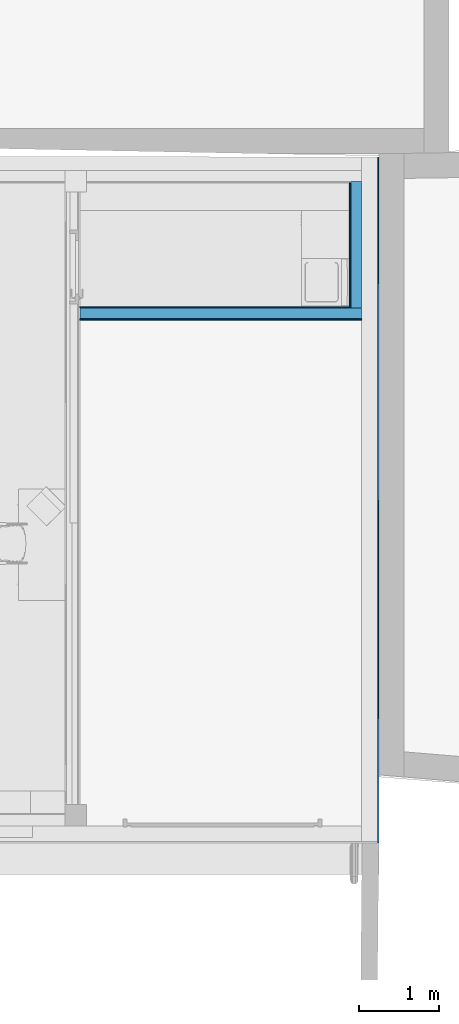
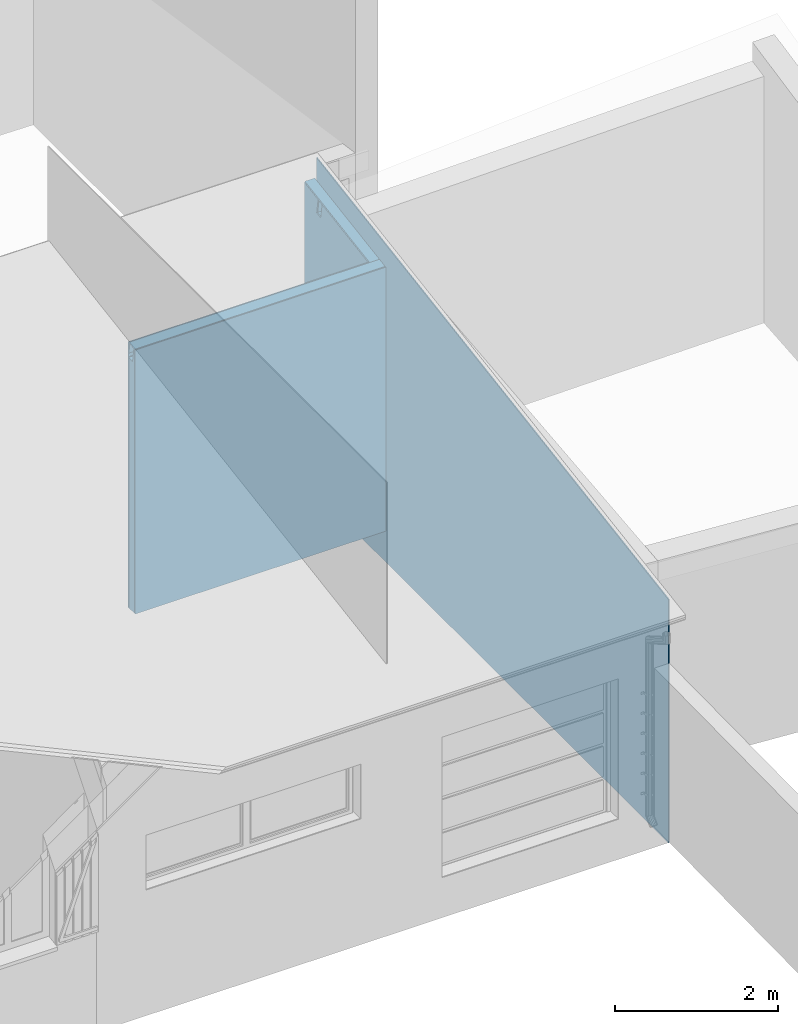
# One storey, part 17 of 24: 6 building element parts, 3 elements without a shape of their own.
"""IFC2X3 building model written with IfcOpenShell, lengths in metres."""

from ifc_helpers import new_model, entity, si_unit, converted_unit, derived_unit, money_unit, direction, frame, origin_with_axes, place, context, subcontext, project, spatial, polyline, outline, extrude, boolean, faceted_brep, material, type_object, element, aggregate, save


model = new_model("IFC2X3")

# Units and contexts
model_context = context("Model", 3, precision=1e-05, world=origin_with_axes(), true_north=direction((0.0, 1.0)))
body_context = subcontext(model_context, "Body", "Model", "MODEL_VIEW")
ifc_project = project(units=[si_unit("LENGTHUNIT", "METRE"), si_unit("AREAUNIT", "SQUARE_METRE"), si_unit("VOLUMEUNIT", "CUBIC_METRE"), converted_unit("PLANEANGLEUNIT", "DEGREE", entity("IfcPlaneAngleMeasure", 0.0174532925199), si_unit("PLANEANGLEUNIT", "RADIAN"), dimensions=[0, 0, 0, 0, 0, 0, 0]), si_unit("SOLIDANGLEUNIT", "STERADIAN"), money_unit("CHF"), converted_unit("TIMEUNIT", "Year", entity("IfcTimeMeasure", 31556926.0), si_unit("TIMEUNIT", "SECOND"), dimensions=[0, 0, 1, 0, 0, 0, 0]), si_unit("MASSUNIT", "GRAM", prefix="KILO"), si_unit("THERMODYNAMICTEMPERATUREUNIT", "DEGREE_CELSIUS"), si_unit("LUMINOUSINTENSITYUNIT", "LUMEN"), si_unit("ENERGYUNIT", "JOULE", prefix="MEGA"), derived_unit("THERMALCONDUCTANCEUNIT", [(si_unit("POWERUNIT", "WATT"), 1), (si_unit("LENGTHUNIT", "METRE"), -1), (si_unit("THERMODYNAMICTEMPERATUREUNIT", "KELVIN"), -1)]), derived_unit("SPECIFICHEATCAPACITYUNIT", [(si_unit("ENERGYUNIT", "JOULE"), 1), (si_unit("MASSUNIT", "GRAM", prefix="KILO"), -1), (si_unit("THERMODYNAMICTEMPERATUREUNIT", "KELVIN"), -1)]), derived_unit("MASSDENSITYUNIT", [(si_unit("MASSUNIT", "GRAM", prefix="KILO"), 1), (si_unit("VOLUMEUNIT", "CUBIC_METRE"), -1)])], contexts=[model_context])

# Site, building, storey
site_placement = place(None, origin_with_axes())
site = spatial("IfcSite", under=ifc_project, at=site_placement, Name="Site", CompositionType="ELEMENT")
building_placement = place(site_placement, origin_with_axes())
building = spatial("IfcBuilding", under=site, at=building_placement, Name="Bâtiment", CompositionType="ELEMENT")
storey_placement = place(building_placement, origin_with_axes())
storey = spatial("IfcBuildingStorey", under=building, at=storey_placement, Name="Rez-de-chaussée", CompositionType="ELEMENT", Elevation=0.0)

# Wall, building element part
wall_type_1 = type_object("IfcWallType", Name="0.0 - Mur ext: revét ext + maçonnerie 215", PredefinedType="ELEMENTEDWALL")
wall_1_placement = place(storey_placement, frame((31.2721417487, 16.1929346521, -0.6), z_axis=(0.0, 0.0, 1.0), x_axis=(0.0, -1.0, 0.0)))
wall_1 = element("IfcWall", 1, at=wall_1_placement, inside=storey, type_object=wall_type_1, Name="MUR_EXT-001", ObjectType="ELEMENTEDWALL")
ifc_material_1 = material(Name="Finition ext - Crépis")
building_element_part_1_placement = place(wall_1_placement, origin_with_axes())
building_element_part_1 = element("IfcBuildingElementPart", 2, at=building_element_part_1_placement, material=ifc_material_1, Name="Finition ext - Crépis", context=body_context, shape_type="CSG", body=[
    boolean("DIFFERENCE", boolean("DIFFERENCE", boolean("DIFFERENCE", boolean("DIFFERENCE", boolean("DIFFERENCE", boolean("DIFFERENCE", boolean("DIFFERENCE", boolean("DIFFERENCE", extrude(outline(polyline([(-0.215, 0.2), (8.455, 0.2), (8.455, 0.215), (-0.215, 0.215), (-0.215, 0.2)])), origin_with_axes(), (0.0, 0.0, 1.0), 5.5967588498), faceted_brep([(6.98500770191, 0.0, 3.87376334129), (6.88626356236, 0.0, 3.88956191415), (6.85150670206, 0.0, 3.67232480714), (6.95025084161, 0.0, 3.65652623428), (6.98500770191, 0.0733046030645, 3.87376334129), (6.88626356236, 0.0733046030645, 3.88956191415), (6.85150670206, 0.0733046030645, 3.67232480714), (6.95025084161, 0.0733046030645, 3.65652623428)], [[[0, 1, 2, 3]], [[1, 0, 4, 5]], [[2, 1, 5, 6]], [[3, 2, 6, 7]], [[0, 3, 7, 4]], [[4, 7, 6, 5]]])), faceted_brep([(5.70133388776, 0.0, 4.0791447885), (5.60258974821, 0.0, 4.09494336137), (5.56783288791, 0.0, 3.87770625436), (5.66657702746, 0.0, 3.86190768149), (5.70133388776, 0.0733046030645, 4.0791447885), (5.60258974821, 0.0733046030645, 4.09494336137), (5.56783288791, 0.0733046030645, 3.87770625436), (5.66657702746, 0.0733046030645, 3.86190768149)], [[[0, 1, 2, 3]], [[1, 0, 4, 5]], [[2, 1, 5, 6]], [[3, 2, 6, 7]], [[0, 3, 7, 4]], [[4, 7, 6, 5]]])), faceted_brep([(4.4176600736, 0.0, 4.28452623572), (4.31891593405, 0.0, 4.30032480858), (4.28415907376, 0.0, 4.08308770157), (4.38290321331, 0.0, 4.06728912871), (4.4176600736, 0.0733046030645, 4.28452623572), (4.31891593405, 0.0733046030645, 4.30032480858), (4.28415907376, 0.0733046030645, 4.08308770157), (4.38290321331, 0.0733046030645, 4.06728912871)], [[[0, 1, 2, 3]], [[1, 0, 4, 5]], [[2, 1, 5, 6]], [[3, 2, 6, 7]], [[0, 3, 7, 4]], [[4, 7, 6, 5]]])), faceted_brep([(3.13398625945, 0.0, 4.48990768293), (3.0352421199, 0.0, 4.5057062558), (3.0004852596, 0.0, 4.28846914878), (3.09922939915, 0.0, 4.27267057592), (3.13398625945, 0.0733046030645, 4.48990768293), (3.0352421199, 0.0733046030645, 4.5057062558), (3.0004852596, 0.0733046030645, 4.28846914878), (3.09922939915, 0.0733046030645, 4.27267057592)], [[[0, 1, 2, 3]], [[1, 0, 4, 5]], [[2, 1, 5, 6]], [[3, 2, 6, 7]], [[0, 3, 7, 4]], [[4, 7, 6, 5]]])), faceted_brep([(1.8503124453, 0.0, 4.69528913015), (1.75156830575, 0.0, 4.71108770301), (1.71681144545, 0.0, 4.493850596), (1.815555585, 0.0, 4.47805202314), (1.8503124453, 0.0733046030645, 4.69528913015), (1.75156830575, 0.0733046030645, 4.71108770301), (1.71681144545, 0.0733046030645, 4.493850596), (1.815555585, 0.0733046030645, 4.47805202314)], [[[0, 1, 2, 3]], [[1, 0, 4, 5]], [[2, 1, 5, 6]], [[3, 2, 6, 7]], [[0, 3, 7, 4]], [[4, 7, 6, 5]]])), faceted_brep([(0.589167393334, 0.0, 4.89706608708), (0.490423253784, 0.0, 4.91286465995), (0.455666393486, 0.0, 4.69562755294), (0.554410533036, 0.0, 4.67982898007), (0.589167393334, 0.0733046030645, 4.89706608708), (0.490423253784, 0.0733046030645, 4.91286465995), (0.455666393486, 0.0733046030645, 4.69562755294), (0.554410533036, 0.0733046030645, 4.67982898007)], [[[0, 1, 2, 3]], [[1, 0, 4, 5]], [[2, 1, 5, 6]], [[3, 2, 6, 7]], [[0, 3, 7, 4]], [[4, 7, 6, 5]]])), faceted_brep([(8.44, 0.2, 0.0), (8.44, 0.2, 3.6423999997), (-0.167677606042, 0.2, 5.01962841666), (-0.167677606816, 0.2, 0.0), (-0.215, 0.2, 0.0), (-0.215, 0.2, 5.5967588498), (8.455, 0.2, 5.5967588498), (8.455, 0.2, 0.0), (8.44, 0.0, 0.0), (8.44, 0.0, 3.6423999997), (-0.168143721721, 0.0, 5.01970299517), (-0.168143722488, 0.0, 0.0), (-0.215, 0.0, 0.0), (-0.215, 0.0, 5.5967588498), (8.455, 0.0, 5.5967588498), (8.455, 0.0, 0.0)], [[[0, 1, 2, 3, 4, 5, 6, 7]], [[1, 0, 8, 9]], [[9, 10, 2, 1]], [[11, 3, 2, 10]], [[3, 11, 12, 4]], [[5, 4, 12, 13]], [[5, 13, 14, 6]], [[14, 15, 7, 6]], [[8, 0, 7, 15]], [[9, 8, 15, 14, 13, 12, 11, 10]]])), faceted_brep([(-0.167642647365, 0.21500000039, 5.01962282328), (-0.167642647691, 0.215000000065, 0.0), (-0.215, 0.215, 0.0), (-0.215, 0.215, 5.5967588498), (8.455, 0.215, 5.5967588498), (8.455, 0.21500000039, 3.6399999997), (-0.167677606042, 0.2, 5.01962841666), (-0.167677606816, 0.2, 0.0), (-0.215, 0.2, 0.0), (-0.215, 0.2, 5.5967588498), (8.455, 0.2, 5.5967588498), (8.455, 0.2, 3.6399999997)], [[[0, 1, 2, 3, 4, 5]], [[1, 0, 6, 7]], [[1, 7, 8, 2]], [[3, 2, 8, 9]], [[3, 9, 10, 4]], [[11, 5, 4, 10]], [[0, 5, 11, 6]], [[11, 10, 9, 8, 7, 6]]])),
])
aggregate(wall_1, [building_element_part_1])

# Wall, building element parts
wall_type_2 = type_object("IfcWallType", Name="3.3b - Cloison doublage isolation + plâtre 1 face 155", PredefinedType="ELEMENTEDWALL")
wall_2_placement = place(storey_placement, frame((31.2721417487, 14.311525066, -0.13), z_axis=(0.0, 0.0, 1.0), x_axis=(0.0, 1.0, 0.0)))
wall_2 = element("IfcWall", 3, at=wall_2_placement, inside=storey, type_object=wall_type_2, Name="MUR_EXT-010", ObjectType="ELEMENTEDWALL")
ifc_material_2 = material(Name="Finition int - Plaque de plâtre")
building_element_part_2_placement = place(wall_2_placement, origin_with_axes())
building_element_part_2 = element("IfcBuildingElementPart", 4, at=building_element_part_2_placement, material=ifc_material_2, Name="Finition int - Plaque de plâtre", context=body_context, shape_type="CSG", body=[
    boolean("DIFFERENCE", boolean("DIFFERENCE", boolean("DIFFERENCE", boolean("DIFFERENCE", extrude(outline(polyline([(0.0, 0.14), (2.09640958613, 0.14), (2.09640958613, 0.155), (0.0, 0.155), (0.0, 0.14)])), origin_with_axes(), (0.0, 0.0, 1.0), 6.01874511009), faceted_brep([(1.29224219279, 0.155, 4.42706608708), (1.39098633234, 0.155, 4.44286465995), (1.42574319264, 0.155, 4.22562755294), (1.32699905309, 0.155, 4.20982898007), (1.29224219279, 0.14, 4.42706608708), (1.39098633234, 0.14, 4.44286465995), (1.42574319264, 0.14, 4.22562755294), (1.32699905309, 0.14, 4.20982898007)], [[[0, 1, 2, 3]], [[1, 0, 4, 5]], [[2, 1, 5, 6]], [[3, 2, 6, 7]], [[0, 3, 7, 4]], [[4, 7, 6, 5]]])), faceted_brep([(2.09640958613, 0.155, 6.01874511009), (2.09640958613, 0.155, 0.0), (0.0, 0.155, 0.0), (0.0, 0.155, 6.01874511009), (0.17, 0.155, 0.275), (1.72640958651, 0.155, 0.275), (1.72640958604, 0.155, 4.49799999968), (0.17, 0.155, 4.24897446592), (2.09640958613, 0.14, 6.01874511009), (2.09640958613, 0.14, 0.0), (0.0, 0.14, 0.0), (0.0, 0.14, 6.01874511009), (0.17, 0.14, 0.275), (1.72640958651, 0.14, 0.275), (1.72640958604, 0.14, 4.49799999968), (0.17, 0.14, 4.24897446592)], [[[0, 1, 2, 3], [4, 5, 6, 7]], [[8, 9, 1, 0]], [[9, 10, 2, 1]], [[3, 2, 10, 11]], [[3, 11, 8, 0]], [[5, 4, 12, 13]], [[13, 14, 6, 5]], [[7, 6, 14, 15]], [[15, 12, 4, 7]], [[11, 10, 9, 8], [12, 15, 14, 13]]])), faceted_brep([(1.29224219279, 0.14, 4.42706608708), (1.39098633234, 0.14, 4.44286465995), (1.42574319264, 0.14, 4.22562755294), (1.32699905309, 0.14, 4.20982898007), (1.29224219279, 4.9105253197e-10, 4.42706608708), (1.39098633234, 4.9105253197e-10, 4.44286465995), (1.42574319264, 4.9105253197e-10, 4.22562755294), (1.32699905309, 4.9105253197e-10, 4.20982898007)], [[[0, 1, 2, 3]], [[4, 5, 1, 0]], [[5, 6, 2, 1]], [[6, 7, 3, 2]], [[7, 4, 0, 3]], [[4, 7, 6, 5]]])), faceted_brep([(2.09640958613, 0.14, 6.01874511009), (2.09640958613, 0.14, 0.0), (0.0, 0.14, 0.0), (0.0, 0.14, 6.01874511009), (1.74140958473, 0.14, 0.275), (1.74140958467, 0.14, 4.50039999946), (0.155, 0.14, 4.24657446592), (0.155, 0.14, 4.08384083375), (0.164598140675, 0.14, 4.023850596), (0.155, 0.14, 4.02231494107), (0.155, 0.14, 0.275), (2.09640958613, 0.0, 6.01874511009), (2.09640958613, 0.0, 0.0), (0.0, 0.0, 0.0), (0.0, 0.0, 6.01874511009), (1.74140958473, 5.51693801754e-09, 0.275), (1.74140958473, 0.0, 4.50039999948), (0.155, 0.0, 4.24657446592), (0.155, 0.0, 4.08384083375), (0.164598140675, 4.9105253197e-10, 4.023850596), (0.155, 0.0, 4.02231494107), (0.155, 4.9105253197e-10, 0.275)], [[[0, 1, 2, 3], [4, 5, 6, 7, 8, 9, 10]], [[11, 12, 1, 0]], [[12, 13, 2, 1]], [[3, 2, 13, 14]], [[3, 14, 11, 0]], [[15, 16, 5, 4]], [[16, 17, 6, 5]], [[17, 18, 7, 6]], [[18, 19, 8, 7]], [[19, 20, 9, 8]], [[20, 21, 10, 9]], [[21, 15, 4, 10]], [[14, 13, 12, 11], [18, 17, 16, 15, 21, 20, 19]]])),
])
ifc_material_3 = material(Name="Cloison - Isolation")
building_element_part_3_placement = place(wall_2_placement, origin_with_axes())
building_element_part_3 = element("IfcBuildingElementPart", 5, at=building_element_part_3_placement, material=ifc_material_3, Name="Cloison - Isolation", context=body_context, shape_type="CSG", body=[
    boolean("DIFFERENCE", boolean("DIFFERENCE", boolean("DIFFERENCE", boolean("DIFFERENCE", extrude(outline(polyline([(0.0, 0.0), (2.09640958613, 0.0), (2.09640958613, 0.14), (0.0, 0.14), (0.0, 0.0)])), origin_with_axes(), (0.0, 0.0, 1.0), 6.01874511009), faceted_brep([(1.29224219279, 0.155, 4.42706608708), (1.39098633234, 0.155, 4.44286465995), (1.42574319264, 0.155, 4.22562755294), (1.32699905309, 0.155, 4.20982898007), (1.29224219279, 0.14, 4.42706608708), (1.39098633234, 0.14, 4.44286465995), (1.42574319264, 0.14, 4.22562755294), (1.32699905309, 0.14, 4.20982898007)], [[[0, 1, 2, 3]], [[1, 0, 4, 5]], [[2, 1, 5, 6]], [[3, 2, 6, 7]], [[0, 3, 7, 4]], [[4, 7, 6, 5]]])), faceted_brep([(2.09640958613, 0.155, 6.01874511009), (2.09640958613, 0.155, 0.0), (0.0, 0.155, 0.0), (0.0, 0.155, 6.01874511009), (0.17, 0.155, 0.275), (1.72640958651, 0.155, 0.275), (1.72640958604, 0.155, 4.49799999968), (0.17, 0.155, 4.24897446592), (2.09640958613, 0.14, 6.01874511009), (2.09640958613, 0.14, 0.0), (0.0, 0.14, 0.0), (0.0, 0.14, 6.01874511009), (0.17, 0.14, 0.275), (1.72640958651, 0.14, 0.275), (1.72640958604, 0.14, 4.49799999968), (0.17, 0.14, 4.24897446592)], [[[0, 1, 2, 3], [4, 5, 6, 7]], [[8, 9, 1, 0]], [[9, 10, 2, 1]], [[3, 2, 10, 11]], [[3, 11, 8, 0]], [[5, 4, 12, 13]], [[13, 14, 6, 5]], [[7, 6, 14, 15]], [[15, 12, 4, 7]], [[11, 10, 9, 8], [12, 15, 14, 13]]])), faceted_brep([(1.29224219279, 0.14, 4.42706608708), (1.39098633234, 0.14, 4.44286465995), (1.42574319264, 0.14, 4.22562755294), (1.32699905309, 0.14, 4.20982898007), (1.29224219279, 4.9105253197e-10, 4.42706608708), (1.39098633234, 4.9105253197e-10, 4.44286465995), (1.42574319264, 4.9105253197e-10, 4.22562755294), (1.32699905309, 4.9105253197e-10, 4.20982898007)], [[[0, 1, 2, 3]], [[4, 5, 1, 0]], [[5, 6, 2, 1]], [[6, 7, 3, 2]], [[7, 4, 0, 3]], [[4, 7, 6, 5]]])), faceted_brep([(2.09640958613, 0.14, 6.01874511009), (2.09640958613, 0.14, 0.0), (0.0, 0.14, 0.0), (0.0, 0.14, 6.01874511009), (1.74140958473, 0.14, 0.275), (1.74140958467, 0.14, 4.50039999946), (0.155, 0.14, 4.24657446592), (0.155, 0.14, 4.08384083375), (0.164598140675, 0.14, 4.023850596), (0.155, 0.14, 4.02231494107), (0.155, 0.14, 0.275), (2.09640958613, 0.0, 6.01874511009), (2.09640958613, 0.0, 0.0), (0.0, 0.0, 0.0), (0.0, 0.0, 6.01874511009), (1.74140958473, 5.51693801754e-09, 0.275), (1.74140958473, 0.0, 4.50039999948), (0.155, 0.0, 4.24657446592), (0.155, 0.0, 4.08384083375), (0.164598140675, 4.9105253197e-10, 4.023850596), (0.155, 0.0, 4.02231494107), (0.155, 4.9105253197e-10, 0.275)], [[[0, 1, 2, 3], [4, 5, 6, 7, 8, 9, 10]], [[11, 12, 1, 0]], [[12, 13, 2, 1]], [[3, 2, 13, 14]], [[3, 14, 11, 0]], [[15, 16, 5, 4]], [[16, 17, 6, 5]], [[17, 18, 7, 6]], [[18, 19, 8, 7]], [[19, 20, 9, 8]], [[20, 21, 10, 9]], [[21, 15, 4, 10]], [[14, 13, 12, 11], [18, 17, 16, 15, 21, 20, 19]]])),
])
aggregate(wall_2, [building_element_part_2, building_element_part_3])

wall_type_3 = type_object("IfcWallType", Name="3.3c - Cloison doublage isolation + plâtre 2 faces 170", PredefinedType="ELEMENTEDWALL")
wall_3_placement = place(storey_placement, frame((27.7271417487, 14.311525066, -0.13), z_axis=(0.0, 0.0, 1.0), x_axis=(1.0, 0.0, 0.0)))
wall_3 = element("IfcWall", 6, at=wall_3_placement, inside=storey, type_object=wall_type_3, Name="MUR_EXT-008", ObjectType="ELEMENTEDWALL")
building_element_part_4_placement = place(wall_3_placement, origin_with_axes())
building_element_part_4 = element("IfcBuildingElementPart", 7, at=building_element_part_4_placement, material=ifc_material_2, Name="Finition int - Plaque de plâtre", context=body_context, shape_type="CSG", body=[
    boolean("DIFFERENCE", boolean("DIFFERENCE", boolean("DIFFERENCE", extrude(outline(polyline([(0.0, 0.155), (3.76, 0.155), (3.76, 0.17), (0.0, 0.17), (0.0, 0.155)])), origin_with_axes(), (0.0, 0.0, 1.0), 6.01874511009), faceted_brep([(0.0, 0.17, 0.275), (3.405, 0.17, 0.275), (3.405, 0.17, 4.24897446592), (0.0, 0.17, 4.24897446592), (0.0, 0.17, 6.01874511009), (3.76, 0.17, 6.01874511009), (3.76, 0.17, 0.0), (0.0, 0.17, 0.0), (0.0, 0.155, 0.275), (3.405, 0.155, 0.275), (3.405, 0.155, 4.02231494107), (3.405, 0.164598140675, 4.023850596), (3.405, 0.155, 4.08384083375), (3.405, 0.155, 4.24657446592), (0.0, 0.155, 4.24657446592), (0.0, 0.155, 6.01874511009), (3.76, 0.155, 6.01874511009), (3.76, 0.155, 0.0), (0.0, 0.155, 0.0), (0.0, 0.155, 4.08384083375), (0.0, 0.155, 4.02231494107), (0.0, 0.164598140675, 4.023850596)], [[[0, 1, 2, 3, 4, 5, 6, 7]], [[1, 0, 8, 9]], [[2, 1, 9, 10, 11, 12, 13]], [[3, 2, 13, 14]], [[3, 14, 15, 4]], [[4, 15, 16, 5]], [[16, 17, 6, 5]], [[17, 18, 7, 6]], [[8, 0, 7, 18]], [[9, 8, 18, 17, 16, 15, 14, 13, 12, 19, 20, 10]], [[20, 21, 11, 10]], [[21, 19, 12, 11]], [[21, 20, 19]]])), faceted_brep([(3.54499999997, 0.155, 4.08384083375), (3.54499999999, 0.155, 4.24657446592), (0.0, 0.155, 4.24657446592), (0.0, 0.155, 6.01874511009), (3.76, 0.155, 6.01874511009), (3.76, 0.155, 0.0), (0.0, 0.155, 0.0), (0.0, 0.155, 0.275), (3.54499999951, 0.155, 0.275), (3.54499999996, 0.155, 4.02231494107), (0.0, 0.155, 4.02231494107), (0.0, 0.155, 4.08384083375), (3.54499999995, 0.129841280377, 4.24108770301), (3.54499999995, 0.0310971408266, 4.22528913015), (3.54499999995, 0.0658540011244, 4.00805202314), (3.54499999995, 0.015, 0.275), (3.545, 0.015, 4.22417446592), (0.0, 0.015, 4.22417446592), (0.0, 0.015, 6.01874511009), (3.76, 0.015, 6.01874511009), (3.76, 0.015, 0.0), (0.0, 0.015, 0.0), (0.0, 0.015, 0.275), (0.0, 0.0658540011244, 4.00805202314), (0.0, 0.129841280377, 4.24108770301), (0.0, 0.0310971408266, 4.22528913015)], [[[0, 1, 2, 3, 4, 5, 6, 7, 8, 9, 10, 11]], [[1, 0, 12, 13, 14, 9, 8, 15, 16]], [[1, 16, 17, 2]], [[2, 17, 18, 3]], [[3, 18, 19, 4]], [[19, 20, 5, 4]], [[20, 21, 6, 5]], [[22, 7, 6, 21]], [[8, 7, 22, 15]], [[9, 14, 23, 10]], [[24, 11, 10, 23, 25]], [[0, 11, 24, 12]], [[24, 25, 13, 12]], [[25, 23, 14, 13]], [[15, 22, 21, 20, 19, 18, 17, 16]]])), faceted_brep([(0.0, 0.015, 0.275), (3.54499999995, 0.015, 0.275), (3.545, 0.015, 4.22417446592), (0.0, 0.015, 4.22417446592), (0.0, 0.015, 6.01874511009), (3.76, 0.015, 6.01874511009), (3.76, 0.015, 0.0), (0.0, 0.015, 0.0), (0.0, 0.0, 0.275), (3.545, 0.0, 0.275), (3.545, 0.0, 4.22177446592), (0.0, 0.0, 4.22177446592), (0.0, 0.0, 6.01874511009), (3.76, 0.0, 6.01874511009), (3.76, 0.0, 0.0), (0.0, 0.0, 0.0)], [[[0, 1, 2, 3, 4, 5, 6, 7]], [[8, 9, 1, 0]], [[9, 10, 2, 1]], [[10, 11, 3, 2]], [[3, 11, 12, 4]], [[4, 12, 13, 5]], [[13, 14, 6, 5]], [[14, 15, 7, 6]], [[8, 0, 7, 15]], [[9, 8, 15, 14, 13, 12, 11, 10]]])),
])
building_element_part_5_placement = place(wall_3_placement, origin_with_axes())
building_element_part_5 = element("IfcBuildingElementPart", 8, at=building_element_part_5_placement, material=ifc_material_3, Name="Cloison - Isolation", context=body_context, shape_type="CSG", body=[
    boolean("DIFFERENCE", boolean("DIFFERENCE", boolean("DIFFERENCE", extrude(outline(polyline([(0.0, 0.015), (3.76, 0.015), (3.76, 0.155), (0.0, 0.155), (0.0, 0.015)])), origin_with_axes(), (0.0, 0.0, 1.0), 6.01874511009), faceted_brep([(0.0, 0.17, 0.275), (3.405, 0.17, 0.275), (3.405, 0.17, 4.24897446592), (0.0, 0.17, 4.24897446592), (0.0, 0.17, 6.01874511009), (3.76, 0.17, 6.01874511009), (3.76, 0.17, 0.0), (0.0, 0.17, 0.0), (0.0, 0.155, 0.275), (3.405, 0.155, 0.275), (3.405, 0.155, 4.02231494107), (3.405, 0.164598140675, 4.023850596), (3.405, 0.155, 4.08384083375), (3.405, 0.155, 4.24657446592), (0.0, 0.155, 4.24657446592), (0.0, 0.155, 6.01874511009), (3.76, 0.155, 6.01874511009), (3.76, 0.155, 0.0), (0.0, 0.155, 0.0), (0.0, 0.155, 4.08384083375), (0.0, 0.155, 4.02231494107), (0.0, 0.164598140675, 4.023850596)], [[[0, 1, 2, 3, 4, 5, 6, 7]], [[1, 0, 8, 9]], [[2, 1, 9, 10, 11, 12, 13]], [[3, 2, 13, 14]], [[3, 14, 15, 4]], [[4, 15, 16, 5]], [[16, 17, 6, 5]], [[17, 18, 7, 6]], [[8, 0, 7, 18]], [[9, 8, 18, 17, 16, 15, 14, 13, 12, 19, 20, 10]], [[20, 21, 11, 10]], [[21, 19, 12, 11]], [[21, 20, 19]]])), faceted_brep([(3.54499999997, 0.155, 4.08384083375), (3.54499999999, 0.155, 4.24657446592), (0.0, 0.155, 4.24657446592), (0.0, 0.155, 6.01874511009), (3.76, 0.155, 6.01874511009), (3.76, 0.155, 0.0), (0.0, 0.155, 0.0), (0.0, 0.155, 0.275), (3.54499999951, 0.155, 0.275), (3.54499999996, 0.155, 4.02231494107), (0.0, 0.155, 4.02231494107), (0.0, 0.155, 4.08384083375), (3.54499999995, 0.129841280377, 4.24108770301), (3.54499999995, 0.0310971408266, 4.22528913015), (3.54499999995, 0.0658540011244, 4.00805202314), (3.54499999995, 0.015, 0.275), (3.545, 0.015, 4.22417446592), (0.0, 0.015, 4.22417446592), (0.0, 0.015, 6.01874511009), (3.76, 0.015, 6.01874511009), (3.76, 0.015, 0.0), (0.0, 0.015, 0.0), (0.0, 0.015, 0.275), (0.0, 0.0658540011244, 4.00805202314), (0.0, 0.129841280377, 4.24108770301), (0.0, 0.0310971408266, 4.22528913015)], [[[0, 1, 2, 3, 4, 5, 6, 7, 8, 9, 10, 11]], [[1, 0, 12, 13, 14, 9, 8, 15, 16]], [[1, 16, 17, 2]], [[2, 17, 18, 3]], [[3, 18, 19, 4]], [[19, 20, 5, 4]], [[20, 21, 6, 5]], [[22, 7, 6, 21]], [[8, 7, 22, 15]], [[9, 14, 23, 10]], [[24, 11, 10, 23, 25]], [[0, 11, 24, 12]], [[24, 25, 13, 12]], [[25, 23, 14, 13]], [[15, 22, 21, 20, 19, 18, 17, 16]]])), faceted_brep([(0.0, 0.015, 0.275), (3.54499999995, 0.015, 0.275), (3.545, 0.015, 4.22417446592), (0.0, 0.015, 4.22417446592), (0.0, 0.015, 6.01874511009), (3.76, 0.015, 6.01874511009), (3.76, 0.015, 0.0), (0.0, 0.015, 0.0), (0.0, 0.0, 0.275), (3.545, 0.0, 0.275), (3.545, 0.0, 4.22177446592), (0.0, 0.0, 4.22177446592), (0.0, 0.0, 6.01874511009), (3.76, 0.0, 6.01874511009), (3.76, 0.0, 0.0), (0.0, 0.0, 0.0)], [[[0, 1, 2, 3, 4, 5, 6, 7]], [[8, 9, 1, 0]], [[9, 10, 2, 1]], [[10, 11, 3, 2]], [[3, 11, 12, 4]], [[4, 12, 13, 5]], [[13, 14, 6, 5]], [[14, 15, 7, 6]], [[8, 0, 7, 15]], [[9, 8, 15, 14, 13, 12, 11, 10]]])),
])
building_element_part_6_placement = place(wall_3_placement, origin_with_axes())
building_element_part_6 = element("IfcBuildingElementPart", 9, at=building_element_part_6_placement, material=ifc_material_2, Name="Finition int - Plaque de plâtre", context=body_context, shape_type="CSG", body=[
    boolean("DIFFERENCE", boolean("DIFFERENCE", boolean("DIFFERENCE", extrude(outline(polyline([(0.0, 0.0), (3.76, 0.0), (3.76, 0.015), (0.0, 0.015), (0.0, 0.0)])), origin_with_axes(), (0.0, 0.0, 1.0), 6.01874511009), faceted_brep([(0.0, 0.17, 0.275), (3.405, 0.17, 0.275), (3.405, 0.17, 4.24897446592), (0.0, 0.17, 4.24897446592), (0.0, 0.17, 6.01874511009), (3.76, 0.17, 6.01874511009), (3.76, 0.17, 0.0), (0.0, 0.17, 0.0), (0.0, 0.155, 0.275), (3.405, 0.155, 0.275), (3.405, 0.155, 4.02231494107), (3.405, 0.164598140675, 4.023850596), (3.405, 0.155, 4.08384083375), (3.405, 0.155, 4.24657446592), (0.0, 0.155, 4.24657446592), (0.0, 0.155, 6.01874511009), (3.76, 0.155, 6.01874511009), (3.76, 0.155, 0.0), (0.0, 0.155, 0.0), (0.0, 0.155, 4.08384083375), (0.0, 0.155, 4.02231494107), (0.0, 0.164598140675, 4.023850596)], [[[0, 1, 2, 3, 4, 5, 6, 7]], [[1, 0, 8, 9]], [[2, 1, 9, 10, 11, 12, 13]], [[3, 2, 13, 14]], [[3, 14, 15, 4]], [[4, 15, 16, 5]], [[16, 17, 6, 5]], [[17, 18, 7, 6]], [[8, 0, 7, 18]], [[9, 8, 18, 17, 16, 15, 14, 13, 12, 19, 20, 10]], [[20, 21, 11, 10]], [[21, 19, 12, 11]], [[21, 20, 19]]])), faceted_brep([(3.54499999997, 0.155, 4.08384083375), (3.54499999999, 0.155, 4.24657446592), (0.0, 0.155, 4.24657446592), (0.0, 0.155, 6.01874511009), (3.76, 0.155, 6.01874511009), (3.76, 0.155, 0.0), (0.0, 0.155, 0.0), (0.0, 0.155, 0.275), (3.54499999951, 0.155, 0.275), (3.54499999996, 0.155, 4.02231494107), (0.0, 0.155, 4.02231494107), (0.0, 0.155, 4.08384083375), (3.54499999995, 0.129841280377, 4.24108770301), (3.54499999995, 0.0310971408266, 4.22528913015), (3.54499999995, 0.0658540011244, 4.00805202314), (3.54499999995, 0.015, 0.275), (3.545, 0.015, 4.22417446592), (0.0, 0.015, 4.22417446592), (0.0, 0.015, 6.01874511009), (3.76, 0.015, 6.01874511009), (3.76, 0.015, 0.0), (0.0, 0.015, 0.0), (0.0, 0.015, 0.275), (0.0, 0.0658540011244, 4.00805202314), (0.0, 0.129841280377, 4.24108770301), (0.0, 0.0310971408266, 4.22528913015)], [[[0, 1, 2, 3, 4, 5, 6, 7, 8, 9, 10, 11]], [[1, 0, 12, 13, 14, 9, 8, 15, 16]], [[1, 16, 17, 2]], [[2, 17, 18, 3]], [[3, 18, 19, 4]], [[19, 20, 5, 4]], [[20, 21, 6, 5]], [[22, 7, 6, 21]], [[8, 7, 22, 15]], [[9, 14, 23, 10]], [[24, 11, 10, 23, 25]], [[0, 11, 24, 12]], [[24, 25, 13, 12]], [[25, 23, 14, 13]], [[15, 22, 21, 20, 19, 18, 17, 16]]])), faceted_brep([(0.0, 0.015, 0.275), (3.54499999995, 0.015, 0.275), (3.545, 0.015, 4.22417446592), (0.0, 0.015, 4.22417446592), (0.0, 0.015, 6.01874511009), (3.76, 0.015, 6.01874511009), (3.76, 0.015, 0.0), (0.0, 0.015, 0.0), (0.0, 0.0, 0.275), (3.545, 0.0, 0.275), (3.545, 0.0, 4.22177446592), (0.0, 0.0, 4.22177446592), (0.0, 0.0, 6.01874511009), (3.76, 0.0, 6.01874511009), (3.76, 0.0, 0.0), (0.0, 0.0, 0.0)], [[[0, 1, 2, 3, 4, 5, 6, 7]], [[8, 9, 1, 0]], [[9, 10, 2, 1]], [[10, 11, 3, 2]], [[3, 11, 12, 4]], [[4, 12, 13, 5]], [[13, 14, 6, 5]], [[14, 15, 7, 6]], [[8, 0, 7, 15]], [[9, 8, 15, 14, 13, 12, 11, 10]]])),
])
aggregate(wall_3, [building_element_part_4, building_element_part_5, building_element_part_6])

save(model, "model.ifc")
